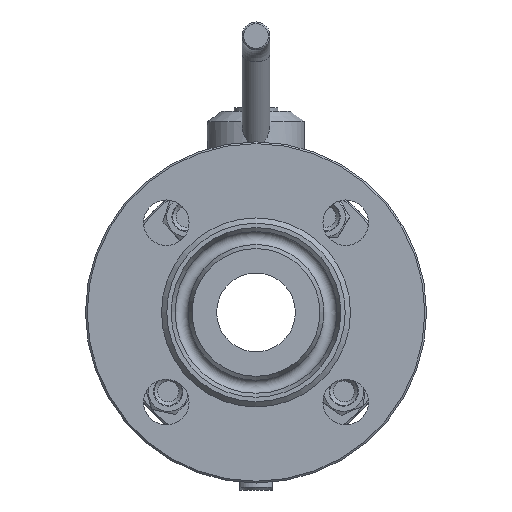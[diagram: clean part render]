
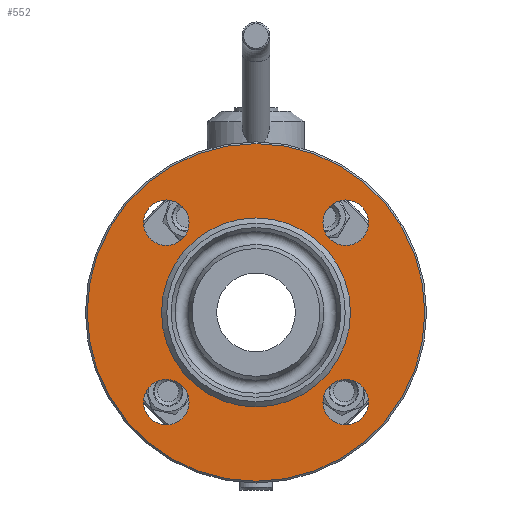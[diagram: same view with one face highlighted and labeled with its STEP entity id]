
A CAD part, left-side view. The second image highlights one B-rep face of the part: STEP entity #552.
In plain terms, the highlighted planar face has unit normal (-1, 0, 0).
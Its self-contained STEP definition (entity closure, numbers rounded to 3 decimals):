
#552=ADVANCED_FACE('',(#5912,#5914,#5916,#5918,#5920,#5922),#5924,.T.);
#5912=FACE_BOUND('',#5913,.T.);
#5913=EDGE_LOOP('',(#9567));
#5914=FACE_BOUND('',#5915,.T.);
#5915=EDGE_LOOP('',(#9568));
#5916=FACE_BOUND('',#5917,.T.);
#5917=EDGE_LOOP('',(#9569));
#5918=FACE_BOUND('',#5919,.T.);
#5919=EDGE_LOOP('',(#9570));
#5920=FACE_BOUND('',#5921,.T.);
#5921=EDGE_LOOP('',(#9571));
#5922=FACE_OUTER_BOUND('',#5923,.T.);
#5923=EDGE_LOOP('',(#9572));
#5924=PLANE('',#5925);
#5925=AXIS2_PLACEMENT_3D('',#5926,#5927,#5928);
#5926=CARTESIAN_POINT('',(-143.,0.,0.));
#5927=DIRECTION('',(-1.,0.,0.));
#5928=DIRECTION('',(0.,0.,1.));
#9567=ORIENTED_EDGE('',*,*,#12266,.T.);
#9568=ORIENTED_EDGE('',*,*,#12313,.T.);
#9569=ORIENTED_EDGE('',*,*,#12263,.T.);
#9570=ORIENTED_EDGE('',*,*,#12261,.T.);
#9571=ORIENTED_EDGE('',*,*,#12259,.T.);
#9572=ORIENTED_EDGE('',*,*,#12314,.F.);
#12259=EDGE_CURVE('',#14243,#14243,#14244,.F.);
#12261=EDGE_CURVE('',#14246,#14246,#14247,.F.);
#12263=EDGE_CURVE('',#14249,#14249,#14250,.F.);
#12266=EDGE_CURVE('',#14252,#14252,#14254,.F.);
#12313=EDGE_CURVE('',#14329,#14329,#14330,.T.);
#12314=EDGE_CURVE('',#14331,#14331,#14332,.T.);
#14243=VERTEX_POINT('',#29047);
#14244=CIRCLE('',#29048,13.);
#14246=VERTEX_POINT('',#29055);
#14247=CIRCLE('',#29056,13.);
#14249=VERTEX_POINT('',#29063);
#14250=CIRCLE('',#29064,13.);
#14252=VERTEX_POINT('',#29071);
#14254=CIRCLE('',#29075,13.);
#14329=VERTEX_POINT('',#29419);
#14330=CIRCLE('',#29420,54.);
#14331=VERTEX_POINT('',#29424);
#14332=CIRCLE('',#29425,96.5);
#29047=CARTESIAN_POINT('',(-143.,-51.265,-64.265));
#29048=AXIS2_PLACEMENT_3D('',#29049,#29050,#29051);
#29049=CARTESIAN_POINT('',(-143.,-51.265,-51.265));
#29050=DIRECTION('',(-1.,0.,0.));
#29051=DIRECTION('',(0.,0.,-1.));
#29055=CARTESIAN_POINT('',(-143.,-64.265,51.265));
#29056=AXIS2_PLACEMENT_3D('',#29057,#29058,#29059);
#29057=CARTESIAN_POINT('',(-143.,-51.265,51.265));
#29058=DIRECTION('',(-1.,0.,0.));
#29059=DIRECTION('',(0.,-1.,0.));
#29063=CARTESIAN_POINT('',(-143.,51.265,64.265));
#29064=AXIS2_PLACEMENT_3D('',#29065,#29066,#29067);
#29065=CARTESIAN_POINT('',(-143.,51.265,51.265));
#29066=DIRECTION('',(-1.,0.,0.));
#29067=DIRECTION('',(0.,0.,1.));
#29071=CARTESIAN_POINT('',(-143.,64.265,-51.265));
#29075=AXIS2_PLACEMENT_3D('',#29076,#29077,#29078);
#29076=CARTESIAN_POINT('',(-143.,51.265,-51.265));
#29077=DIRECTION('',(-1.,0.,0.));
#29078=DIRECTION('',(0.,1.,0.));
#29419=CARTESIAN_POINT('',(-143.,0.,54.));
#29420=AXIS2_PLACEMENT_3D('',#29421,#29422,#29423);
#29421=CARTESIAN_POINT('',(-143.,0.,0.));
#29422=DIRECTION('',(1.,0.,0.));
#29423=DIRECTION('',(0.,0.,1.));
#29424=CARTESIAN_POINT('',(-143.,0.,96.5));
#29425=AXIS2_PLACEMENT_3D('',#29426,#29427,#29428);
#29426=CARTESIAN_POINT('',(-143.,0.,0.));
#29427=DIRECTION('',(1.,0.,0.));
#29428=DIRECTION('',(0.,0.,1.));
